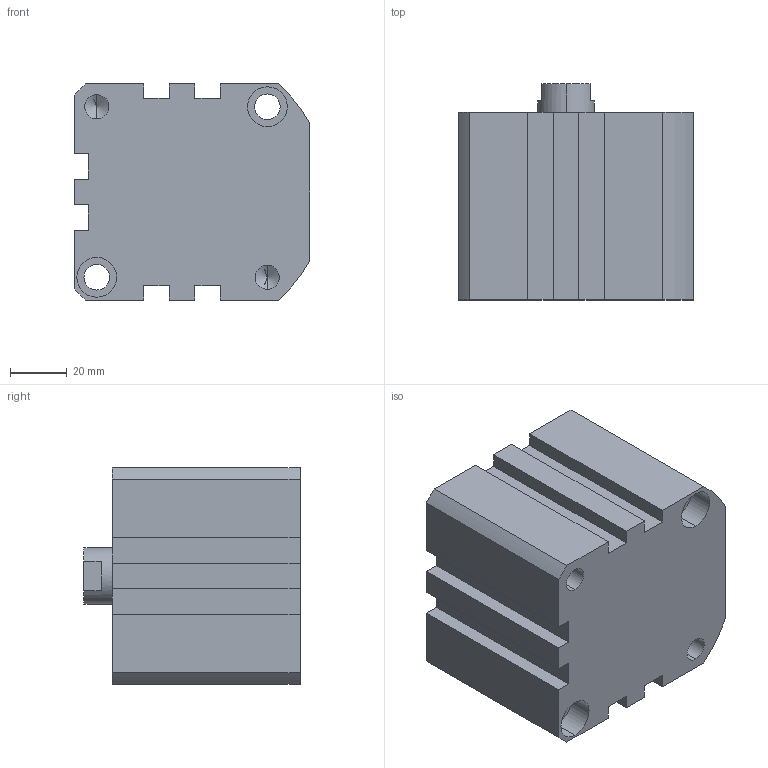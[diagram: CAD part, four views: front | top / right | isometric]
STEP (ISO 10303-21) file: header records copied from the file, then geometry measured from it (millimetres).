
FILE_DESCRIPTION (( 'STEP AP203' ), '1' );
FILE_NAME ('XG#2-63D-10.STEP', '2016-05-24T01:53:38', ( '' ), ( '' ), 'SwSTEP 2.0', 'SolidWorks 2014', '' );
FILE_SCHEMA (( 'CONFIG_CONTROL_DESIGN' ));
Length unit declared in the file: millimetre
Products named in the file (1): XG#2-63D-10
Bounding box: 83 x 76 x 76 mm (x, y, z)
Volume: 366349 mm3; surface area: 45240.2 mm2
Topology: 1 solids, 1 shells, 112 faces, 283 edges, 177 vertices
Faces by surface type: cylinder 48, plane 46, cone 18
Entity records: 3372 total; most frequent: DIRECTION 605, CARTESIAN_POINT 559, ORIENTED_EDGE 538, EDGE_CURVE 269, AXIS2_PLACEMENT_3D 223, VERTEX_POINT 177, VECTOR 159, LINE 159
